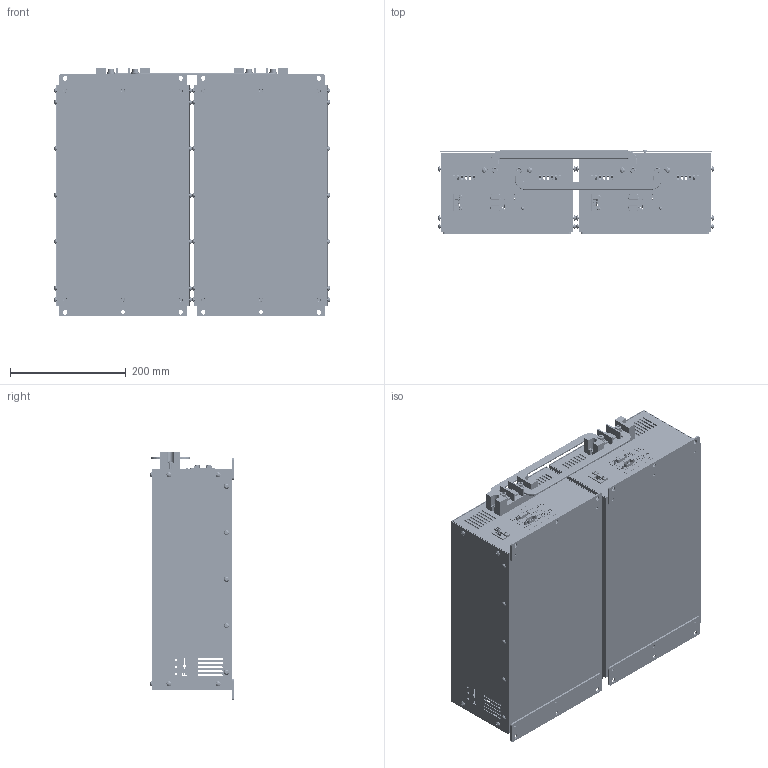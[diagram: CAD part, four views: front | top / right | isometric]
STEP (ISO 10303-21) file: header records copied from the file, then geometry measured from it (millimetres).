
FILE_DESCRIPTION(/* description */ (''),/* implementation_level */ '2;1');
FILE_NAME(/* name */ 'G:\016_배터리 버스바 도면\X3COM\[3D 도면]\[STEP,IGES]\X3COM-BUSBAR.stp',/* time_stamp */ '2023-08-25T15:11:38+09:00',/* author */ ('jjang'),/* organization */ (''),/* preprocessor_version */ 'ST-DEVELOPER v18.1',/* originating_system */ 'Autodesk Inventor 2021',/* authorisation */ '');
FILE_SCHEMA (('AUTOMOTIVE_DESIGN { 1 0 10303 214 3 1 1 }'));
Products named in the file (1): X3COM-BUSBAR_Shrinkwrap_1
Bounding box: 477.84 x 145.97 x 431 mm (x, y, z)
Volume: 1371418.8 mm3; surface area: 1704940.5 mm2
Topology: 13 solids, 13 shells, 9886 faces, 26916 edges, 17718 vertices
Faces by surface type: plane 4496, bspline 3012, cylinder 2006, torus 260, cone 58, sphere 54
Full cylindrical faces by diameter (mm): 0.61 x54, 0.635 x18, 0.9 x12, 1.397 x18, 2.286 x18, 2.5 x4, 2.8 x12, 2.957 x8, 3 x4, 3.048 x8, 3.6 x16, 3.7 x4, 3.8 x36, 4 x30, 4.3 x24, 4.5 x16, 5 x26, 5.3 x40, 5.4 x4, 5.429 x4, 6 x4, 6.082 x2, 6.2 x2, 6.6 x4, 8 x2, 8.8 x20, 9.2 x4, 10 x16, 13 x4, 25.4 x6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
Entity records: 383467 total; most frequent: CARTESIAN_POINT 139279, ORIENTED_EDGE 53756, DIRECTION 40668, EDGE_CURVE 26878, VERTEX_POINT 17718, LINE 14458, VECTOR 14458, AXIS2_PLACEMENT_3D 13105
